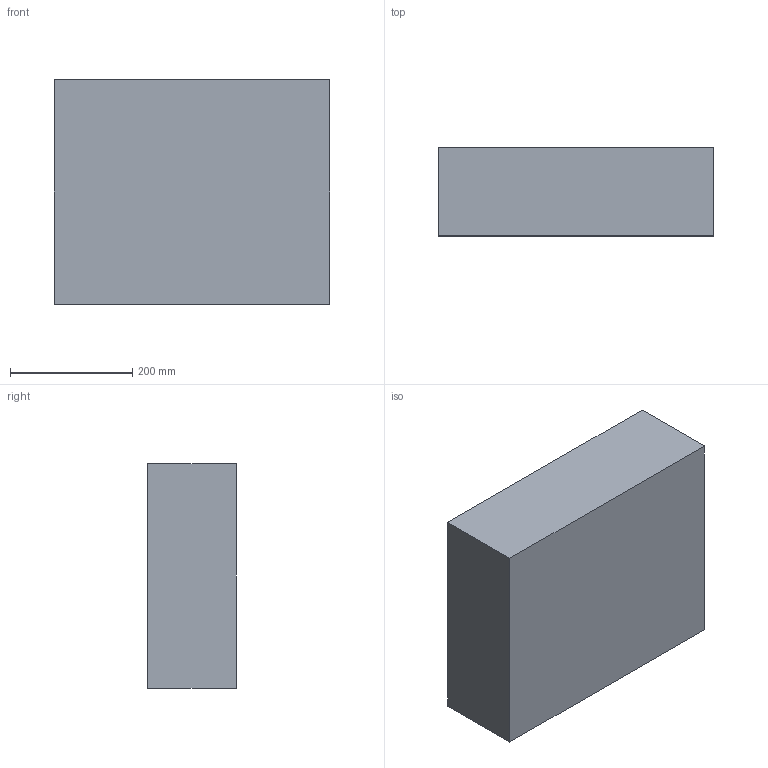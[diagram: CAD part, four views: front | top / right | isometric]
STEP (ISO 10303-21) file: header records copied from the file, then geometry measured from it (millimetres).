
FILE_DESCRIPTION (( 'STEP AP214' ), '1' );
FILE_NAME ('V300 PP TOP TUB 10-2-2023.STEP', '2023-10-03T23:22:24', ( '' ), ( '' ), 'SwSTEP 2.0', 'SolidWorks 2021', '' );
FILE_SCHEMA (( 'AUTOMOTIVE_DESIGN' ));
Length unit declared in the file: millimetre
Products named in the file (1): V300 PP TOP TUB 10-2-2023
Bounding box: 450.24 x 144.18 x 368.14 mm (x, y, z)
Volume: 8398296 mm3; surface area: 769769.3 mm2
Topology: 1 solids, 1 shells, 337 faces, 808 edges, 436 vertices
Faces by surface type: bspline 280, plane 57
Entity records: 15304 total; most frequent: CARTESIAN_POINT 10233, ORIENTED_EDGE 1538, EDGE_CURVE 769, VERTEX_POINT 436, DIRECTION 404, EDGE_LOOP 339, FACE_OUTER_BOUND 337, ADVANCED_FACE 337
